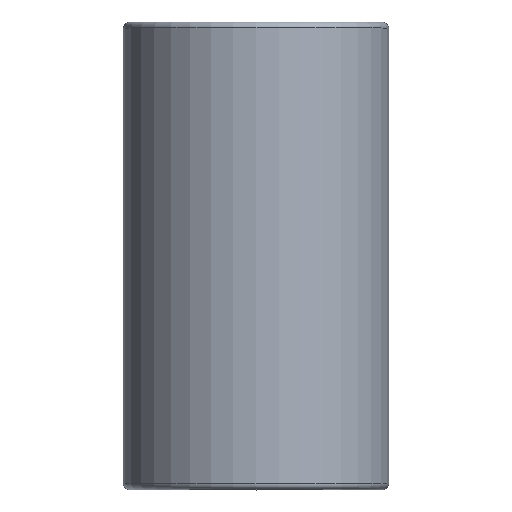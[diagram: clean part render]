
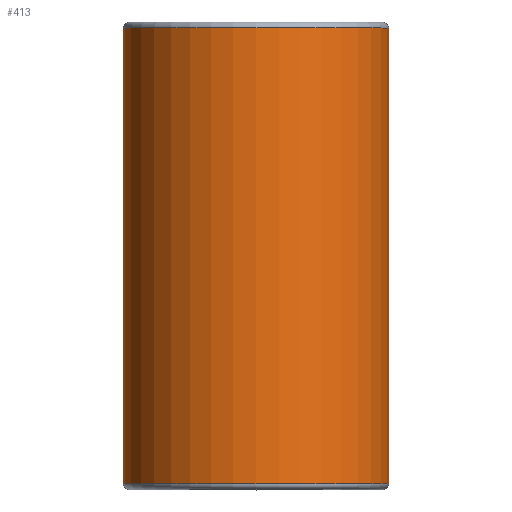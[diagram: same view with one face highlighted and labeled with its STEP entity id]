
A CAD part, top view. The second image highlights one B-rep face of the part: STEP entity #413.
In plain terms, the highlighted cylindrical face has radius 227 mm (diameter 454 mm), a full revolution.
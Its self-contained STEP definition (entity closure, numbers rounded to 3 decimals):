
#45=FACE_BOUND('',#139,.T.);
#91=FACE_OUTER_BOUND('',#138,.T.);
#138=EDGE_LOOP('',(#328));
#139=EDGE_LOOP('',(#329));
#204=CIRCLE('',#475,227.);
#206=CIRCLE('',#478,227.);
#242=VERTEX_POINT('',#722);
#244=VERTEX_POINT('',#727);
#280=EDGE_CURVE('',#242,#242,#204,.T.);
#282=EDGE_CURVE('',#244,#244,#206,.T.);
#328=ORIENTED_EDGE('',*,*,#282,.F.);
#329=ORIENTED_EDGE('',*,*,#280,.F.);
#386=CYLINDRICAL_SURFACE('',#477,227.);
#413=ADVANCED_FACE('',(#91,#45),#386,.T.);
#475=AXIS2_PLACEMENT_3D('',#723,#586,#587);
#477=AXIS2_PLACEMENT_3D('',#726,#590,#591);
#478=AXIS2_PLACEMENT_3D('',#728,#592,#593);
#586=DIRECTION('center_axis',(0.,1.,0.));
#587=DIRECTION('ref_axis',(1.,0.,0.));
#590=DIRECTION('center_axis',(0.,1.,0.));
#591=DIRECTION('ref_axis',(1.,0.,0.));
#592=DIRECTION('center_axis',(0.,-1.,0.));
#593=DIRECTION('ref_axis',(1.,0.,0.));
#722=CARTESIAN_POINT('',(-227.,390.,0.));
#723=CARTESIAN_POINT('Origin',(0.,390.,0.));
#726=CARTESIAN_POINT('Origin',(0.,0.,0.));
#727=CARTESIAN_POINT('',(-227.,-390.,0.));
#728=CARTESIAN_POINT('Origin',(0.,-390.,0.));
